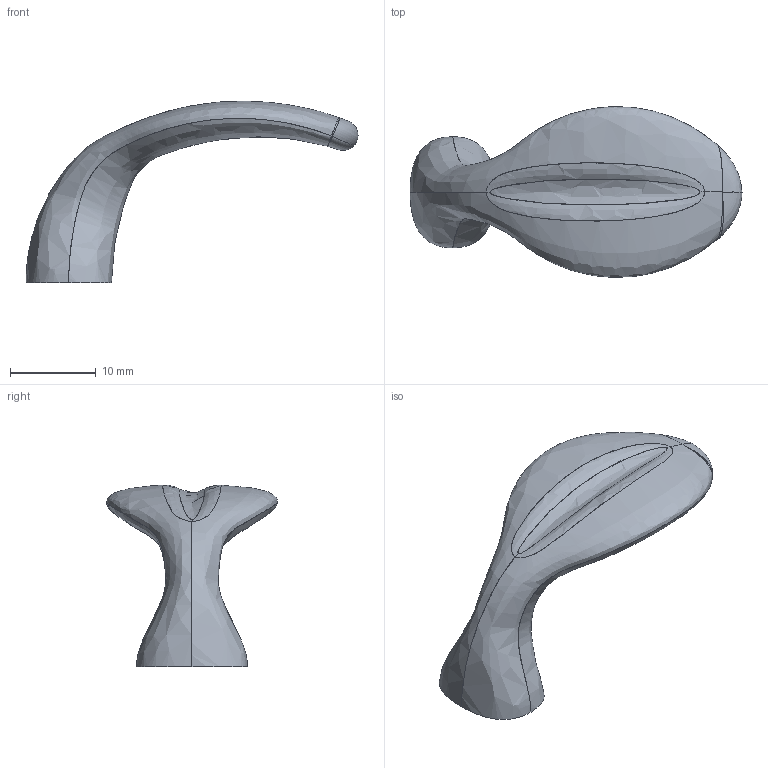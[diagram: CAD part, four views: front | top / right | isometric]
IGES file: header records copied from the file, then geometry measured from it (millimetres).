
Start section:  PTC IGES file: sku_yb7605.igs
Global section: file name: sku_yb7605.igs; native system: Pro/ENGINEER by Parametric Technology Corporation; preprocessor: 2006460; author: 9dutterb; organization: Unknown; date: 20071114.112428; units: inch
Bounding box: 38.83 x 19.99 x 21.26 mm (x, y, z)
Surface area: 1602 mm2 (no closed solid volume)
Topology: 0 solids, 0 shells, 13 faces, 68 edges, 62 vertices
Faces by surface type: bspline 12, revolution 1
